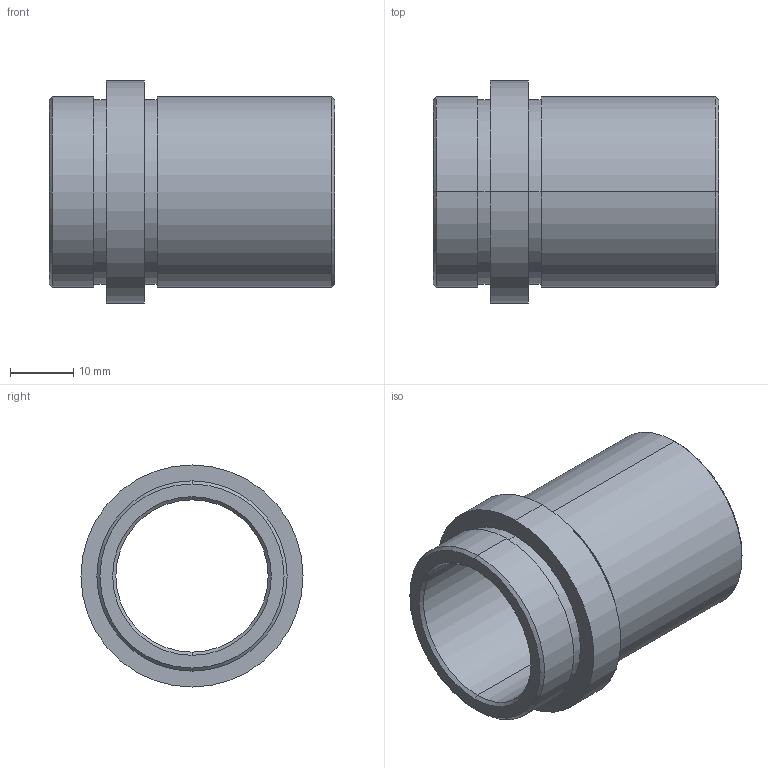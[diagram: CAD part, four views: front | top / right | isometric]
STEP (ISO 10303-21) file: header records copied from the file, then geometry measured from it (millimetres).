
FILE_DESCRIPTION( ( 'STEP AP203' ), '1' );
FILE_NAME( 'D:/Delta 3 D/D21/D21 - 24x36.step', '2002-12-31T22:48:58', ( ' ' ), ( ' ' ), 'XStep 1.0', ' ', ' ' );
FILE_SCHEMA( ( 'CONFIG_CONTROL_DESIGN' ) );
Length unit declared in the file: metre
Products named in the file (1): 1
Bounding box: 45 x 35 x 35 mm (x, y, z)
Volume: 12754.9 mm3; surface area: 8821.2 mm2
Topology: 1 solids, 1 shells, 26 faces, 52 edges, 32 vertices
Faces by surface type: revolution 20, bspline 6
Entity records: 773 total; most frequent: CARTESIAN_POINT 169, DIRECTION 106, ORIENTED_EDGE 104, EDGE_CURVE 52, AXIS2_PLACEMENT_3D 33, EDGE_LOOP 32, VERTEX_POINT 32, CIRCLE 32
